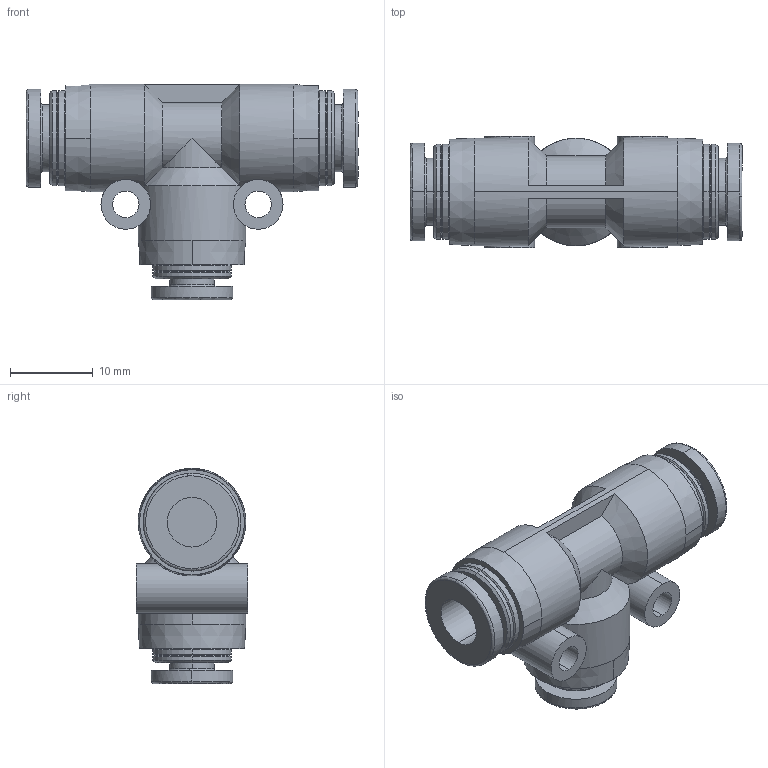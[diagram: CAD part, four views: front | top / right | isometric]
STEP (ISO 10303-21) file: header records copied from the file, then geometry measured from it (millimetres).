
FILE_DESCRIPTION (( 'STEP AP214' ), '1' );
FILE_NAME ('KQ2T04-06A.STEP', '2023-03-06T07:49:39', ( 'Windows User' ), ( 'P R C' ), 'SwSTEP 2.0', 'SolidWorks 2019', '' );
FILE_SCHEMA (( 'AUTOMOTIVE_DESIGN' ));
Length unit declared in the file: millimetre
Products named in the file (1): KQ2T04-06A
Bounding box: 40.1 x 13.5 x 26 mm (x, y, z)
Volume: 5249.7 mm3; surface area: 4140.5 mm2
Topology: 1 solids, 1 shells, 121 faces, 297 edges, 190 vertices
Faces by surface type: cylinder 46, cone 42, plane 21, bspline 12
Entity records: 4450 total; most frequent: CARTESIAN_POINT 1564, DIRECTION 625, ORIENTED_EDGE 594, EDGE_CURVE 297, AXIS2_PLACEMENT_3D 270, VERTEX_POINT 190, CIRCLE 160, EDGE_LOOP 137
